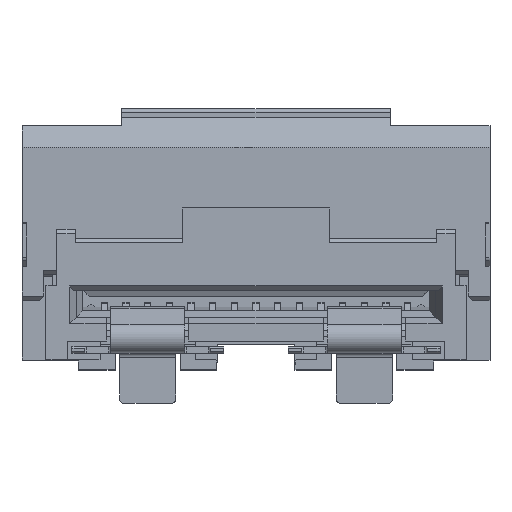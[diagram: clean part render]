
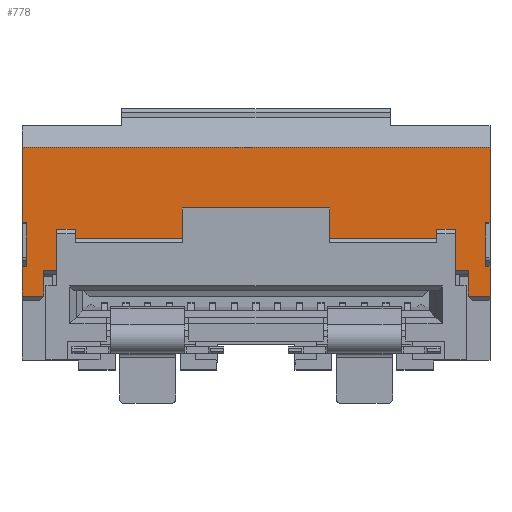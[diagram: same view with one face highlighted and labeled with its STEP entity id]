
A CAD part, top view. The second image highlights one B-rep face of the part: STEP entity #778.
In plain terms, the highlighted planar face has unit normal (0, 0, 1).
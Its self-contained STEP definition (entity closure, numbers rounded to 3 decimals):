
#778=ADVANCED_FACE('',(#2770),#1817,.F.);
#1817=PLANE('',#22649);
#2770=FACE_OUTER_BOUND('',#3900,.T.);
#3900=EDGE_LOOP('',(#8141,#8142,#8143,#8144,#8145,#8146,#8147,#8148,#8149,
#8150,#8151,#8152,#8153,#8154,#8155,#8156,#8157,#8158));
#8141=ORIENTED_EDGE('',*,*,#15124,.T.);
#8142=ORIENTED_EDGE('',*,*,#14957,.T.);
#8143=ORIENTED_EDGE('',*,*,#15222,.F.);
#8144=ORIENTED_EDGE('',*,*,#15072,.F.);
#8145=ORIENTED_EDGE('',*,*,#15075,.T.);
#8146=ORIENTED_EDGE('',*,*,#15080,.T.);
#8147=ORIENTED_EDGE('',*,*,#15220,.F.);
#8148=ORIENTED_EDGE('',*,*,#15169,.T.);
#8149=ORIENTED_EDGE('',*,*,#15166,.T.);
#8150=ORIENTED_EDGE('',*,*,#15066,.F.);
#8151=ORIENTED_EDGE('',*,*,#15063,.F.);
#8152=ORIENTED_EDGE('',*,*,#15058,.T.);
#8153=ORIENTED_EDGE('',*,*,#15223,.T.);
#8154=ORIENTED_EDGE('',*,*,#14941,.T.);
#8155=ORIENTED_EDGE('',*,*,#15133,.T.);
#8156=ORIENTED_EDGE('',*,*,#15105,.T.);
#8157=ORIENTED_EDGE('',*,*,#15100,.T.);
#8158=ORIENTED_EDGE('',*,*,#15109,.T.);
#12406=VERTEX_POINT('',#32533);
#12407=VERTEX_POINT('',#32535);
#12415=VERTEX_POINT('',#32563);
#12417=VERTEX_POINT('',#32566);
#12477=VERTEX_POINT('',#32758);
#12478=VERTEX_POINT('',#32760);
#12482=VERTEX_POINT('',#32770);
#12484=VERTEX_POINT('',#32776);
#12487=VERTEX_POINT('',#32783);
#12489=VERTEX_POINT('',#32787);
#12492=VERTEX_POINT('',#32794);
#12495=VERTEX_POINT('',#32803);
#12512=VERTEX_POINT('',#32844);
#12513=VERTEX_POINT('',#32846);
#12515=VERTEX_POINT('',#32851);
#12519=VERTEX_POINT('',#32862);
#12543=VERTEX_POINT('',#32961);
#12544=VERTEX_POINT('',#32966);
#14941=EDGE_CURVE('',#12407,#12406,#18015,.T.);
#14957=EDGE_CURVE('',#12417,#12415,#18031,.T.);
#15058=EDGE_CURVE('',#12478,#12477,#18124,.T.);
#15063=EDGE_CURVE('',#12478,#12482,#18129,.T.);
#15066=EDGE_CURVE('',#12482,#12484,#18132,.T.);
#15072=EDGE_CURVE('',#12489,#12487,#18138,.T.);
#15075=EDGE_CURVE('',#12489,#12492,#18141,.T.);
#15080=EDGE_CURVE('',#12492,#12495,#18146,.T.);
#15100=EDGE_CURVE('',#12513,#12512,#18166,.T.);
#15105=EDGE_CURVE('',#12515,#12513,#18171,.T.);
#15109=EDGE_CURVE('',#12512,#12519,#18175,.T.);
#15124=EDGE_CURVE('',#12519,#12417,#18190,.T.);
#15133=EDGE_CURVE('',#12406,#12515,#18199,.T.);
#15166=EDGE_CURVE('',#12543,#12484,#18232,.T.);
#15169=EDGE_CURVE('',#12544,#12543,#18235,.T.);
#15220=EDGE_CURVE('',#12544,#12495,#18286,.T.);
#15222=EDGE_CURVE('',#12487,#12415,#18288,.T.);
#15223=EDGE_CURVE('',#12477,#12407,#18289,.T.);
#18015=LINE('',#32534,#20831);
#18031=LINE('',#32565,#20847);
#18124=LINE('',#32759,#20940);
#18129=LINE('',#32769,#20945);
#18132=LINE('',#32775,#20948);
#18138=LINE('',#32788,#20954);
#18141=LINE('',#32795,#20957);
#18146=LINE('',#32804,#20962);
#18166=LINE('',#32845,#20982);
#18171=LINE('',#32855,#20987);
#18175=LINE('',#32863,#20991);
#18190=LINE('',#32889,#21006);
#18199=LINE('',#32904,#21015);
#18232=LINE('',#32960,#21048);
#18235=LINE('',#32965,#21051);
#18286=LINE('',#33068,#21102);
#18288=LINE('',#33071,#21104);
#18289=LINE('',#33073,#21105);
#20831=VECTOR('',#26106,1.);
#20847=VECTOR('',#26132,1.);
#20940=VECTOR('',#26305,1.);
#20945=VECTOR('',#26312,1.);
#20948=VECTOR('',#26317,1.);
#20954=VECTOR('',#26325,1.);
#20957=VECTOR('',#26330,1.);
#20962=VECTOR('',#26337,1.);
#20982=VECTOR('',#26365,1.);
#20987=VECTOR('',#26372,1.);
#20991=VECTOR('',#26378,1.);
#21006=VECTOR('',#26403,1.);
#21015=VECTOR('',#26416,1.);
#21048=VECTOR('',#26469,1.);
#21051=VECTOR('',#26474,1.);
#21102=VECTOR('',#26579,1.);
#21104=VECTOR('',#26583,1.);
#21105=VECTOR('',#26586,1.);
#22649=AXIS2_PLACEMENT_3D('',#33076,#26590,#26591);
#26106=DIRECTION('',(1.,0.,0.));
#26132=DIRECTION('',(1.,0.,0.));
#26305=DIRECTION('',(-1.,0.,0.));
#26312=DIRECTION('',(0.,1.,0.));
#26317=DIRECTION('',(-1.,0.,0.));
#26325=DIRECTION('',(1.,0.,0.));
#26330=DIRECTION('',(0.,1.,0.));
#26337=DIRECTION('',(1.,0.,0.));
#26365=DIRECTION('',(1.,0.,0.));
#26372=DIRECTION('',(1.,0.,0.));
#26378=DIRECTION('',(1.,0.,0.));
#26403=DIRECTION('',(0.,-1.,0.));
#26416=DIRECTION('',(0.,1.,0.));
#26469=DIRECTION('',(0.,-1.,0.));
#26474=DIRECTION('',(-1.,0.,0.));
#26579=DIRECTION('',(0.,-1.,0.));
#26583=DIRECTION('',(0.,-1.,0.));
#26586=DIRECTION('',(0.,-1.,0.));
#26590=DIRECTION('',(0.,0.,-1.));
#26591=DIRECTION('',(0.,-1.,0.));
#32533=CARTESIAN_POINT('',(-4.9,1.7,3.1));
#32534=CARTESIAN_POINT('',(5.4,1.7,3.1));
#32535=CARTESIAN_POINT('',(-5.4,1.7,3.1));
#32563=CARTESIAN_POINT('',(5.4,1.7,3.1));
#32565=CARTESIAN_POINT('',(5.4,1.7,3.1));
#32566=CARTESIAN_POINT('',(4.9,1.7,3.1));
#32758=CARTESIAN_POINT('',(-5.4,2.39,3.1));
#32759=CARTESIAN_POINT('',(-5.3,2.39,3.1));
#32760=CARTESIAN_POINT('',(-5.3,2.39,3.1));
#32769=CARTESIAN_POINT('',(-5.3,2.39,3.1));
#32770=CARTESIAN_POINT('',(-5.3,3.39,3.1));
#32775=CARTESIAN_POINT('',(-5.3,3.39,3.1));
#32776=CARTESIAN_POINT('',(-5.4,3.39,3.1));
#32783=CARTESIAN_POINT('',(5.4,2.39,3.1));
#32787=CARTESIAN_POINT('',(5.3,2.39,3.1));
#32788=CARTESIAN_POINT('',(5.3,2.39,3.1));
#32794=CARTESIAN_POINT('',(5.3,3.39,3.1));
#32795=CARTESIAN_POINT('',(5.3,2.39,3.1));
#32803=CARTESIAN_POINT('',(5.4,3.39,3.1));
#32804=CARTESIAN_POINT('',(5.3,3.39,3.1));
#32844=CARTESIAN_POINT('',(3.95,2.3,3.1));
#32845=CARTESIAN_POINT('',(5.4,2.3,3.1));
#32846=CARTESIAN_POINT('',(-3.95,2.3,3.1));
#32851=CARTESIAN_POINT('',(-4.9,2.3,3.1));
#32855=CARTESIAN_POINT('',(-3.95,2.3,3.1));
#32862=CARTESIAN_POINT('',(4.9,2.3,3.1));
#32863=CARTESIAN_POINT('',(4.9,2.3,3.1));
#32889=CARTESIAN_POINT('',(4.9,2.2,3.1));
#32904=CARTESIAN_POINT('',(-4.9,1.6,3.1));
#32960=CARTESIAN_POINT('',(-5.4,5.13,3.1));
#32961=CARTESIAN_POINT('',(-5.4,5.13,3.1));
#32965=CARTESIAN_POINT('',(5.4,5.13,3.1));
#32966=CARTESIAN_POINT('',(5.4,5.13,3.1));
#33068=CARTESIAN_POINT('',(5.4,5.13,3.1));
#33071=CARTESIAN_POINT('',(5.4,5.13,3.1));
#33073=CARTESIAN_POINT('',(-5.4,5.13,3.1));
#33076=CARTESIAN_POINT('',(5.4,5.13,3.1));
